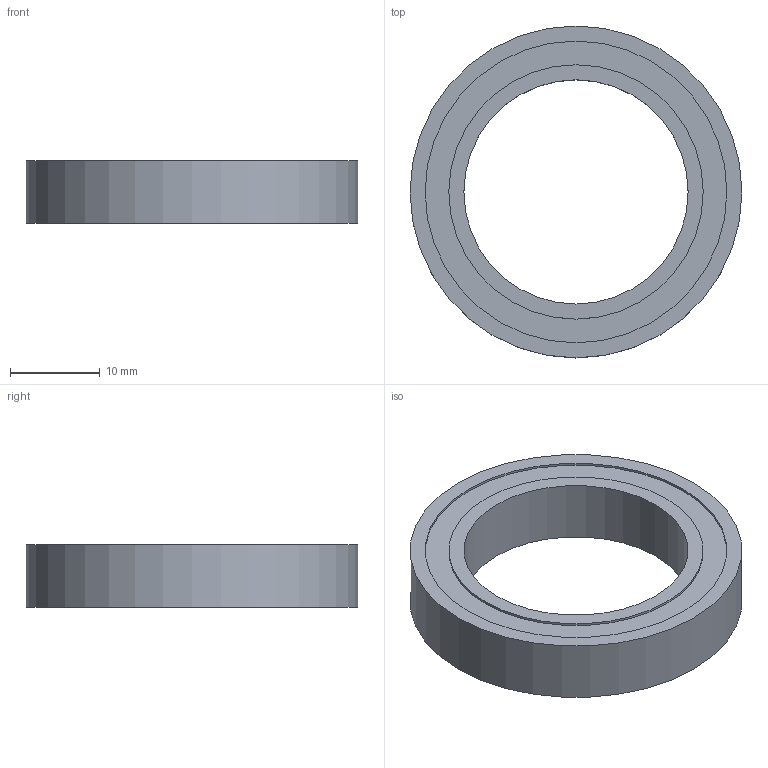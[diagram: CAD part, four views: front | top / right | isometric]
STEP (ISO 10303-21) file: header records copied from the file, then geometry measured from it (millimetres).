
FILE_DESCRIPTION(('Open CASCADE Model'),'2;1');
FILE_NAME('Open CASCADE Shape Model','2026-11-01T16:33:57',('Author'),( 'Open CASCADE'),'Open CASCADE STEP processor 8.0','build123d', 'Unknown');
FILE_SCHEMA(('AUTOMOTIVE_DESIGN { 1 0 10303 214 1 1 1 1 }'));
Length unit declared in the file: millimetre
Products named in the file (2): =>[0:1:1:2]; SOLID
Assembly tree (1 placements, depth 2):
  =>[0:1:1:2]
    SOLID
Bounding box: 37 x 37 x 7 mm (x, y, z)
Volume: 3961.8 mm3; surface area: 2629.5 mm2
Topology: 1 solids, 1 shells, 12 faces, 18 edges, 12 vertices
Faces by surface type: cylinder 6, plane 6
Full cylindrical faces by diameter (mm): 25 x1, 28.36 x2, 33.64 x2, 37 x1
Entity records: 540 total; most frequent: DIRECTION 94, CARTESIAN_POINT 80, ORIENTED_EDGE 36, PCURVE 36, DEFINITIONAL_REPRESENTATION 36, LINE 30, VECTOR 30, AXIS2_PLACEMENT_3D 26
